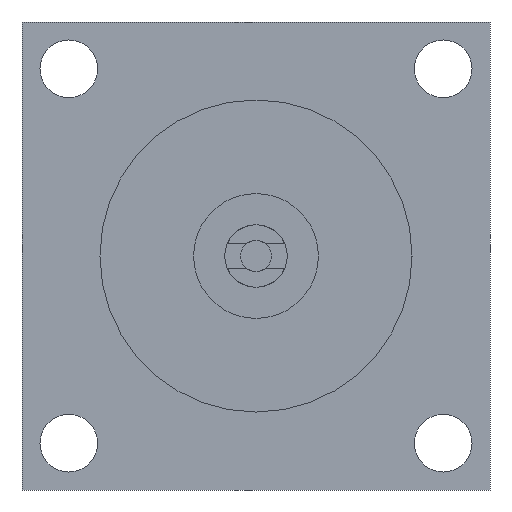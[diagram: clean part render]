
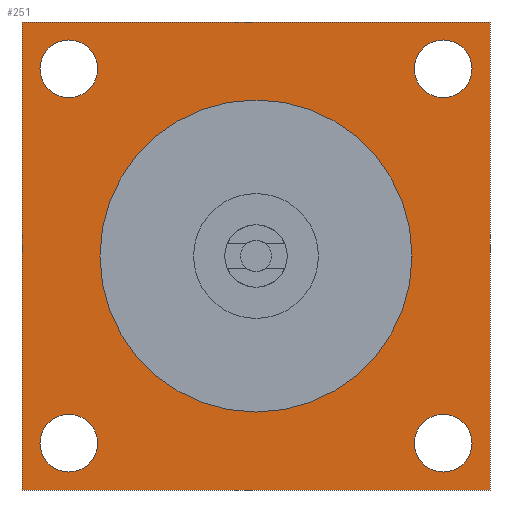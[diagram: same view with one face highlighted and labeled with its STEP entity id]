
A CAD part, left-side view. The second image highlights one B-rep face of the part: STEP entity #251.
In plain terms, the highlighted planar face has unit normal (-1, 0, 0).
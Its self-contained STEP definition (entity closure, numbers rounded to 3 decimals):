
#3 = CARTESIAN_POINT ( 'NONE',  ( -20., 0., 0. ) ) ;
#6 = AXIS2_PLACEMENT_3D ( 'NONE', #1146, #1133, #1195 ) ;
#15 = DIRECTION ( 'NONE',  ( 0., 0., 1. ) ) ;
#16 = FACE_BOUND ( 'NONE', #1518, .T. ) ;
#34 = DIRECTION ( 'NONE',  ( -1., 0., 0. ) ) ;
#39 = EDGE_CURVE ( 'NONE', #1234, #1529, #1609, .T. ) ;
#48 = DIRECTION ( 'NONE',  ( 0., 0., -1. ) ) ;
#57 = CARTESIAN_POINT ( 'NONE',  ( -20., -75., -75. ) ) ;
#71 = CARTESIAN_POINT ( 'NONE',  ( -20., -60., 60. ) ) ;
#76 = EDGE_CURVE ( 'NONE', #453, #1109, #85, .T. ) ;
#79 = DIRECTION ( 'NONE',  ( -1., 0., 0. ) ) ;
#83 = DIRECTION ( 'NONE',  ( 0., 0., 1. ) ) ;
#85 = CIRCLE ( 'NONE', #751, 9.25 ) ;
#127 = CARTESIAN_POINT ( 'NONE',  ( -20., 60., -69.25 ) ) ;
#131 = DIRECTION ( 'NONE',  ( -1., 0., 0. ) ) ;
#137 = DIRECTION ( 'NONE',  ( -1., 0., 0. ) ) ;
#150 = DIRECTION ( 'NONE',  ( 0., 0., 1. ) ) ;
#177 = VERTEX_POINT ( 'NONE', #930 ) ;
#191 = CARTESIAN_POINT ( 'NONE',  ( -20., -60., 60. ) ) ;
#207 = EDGE_CURVE ( 'NONE', #1415, #1305, #237, .T. ) ;
#237 = LINE ( 'NONE', #962, #433 ) ;
#251 = ADVANCED_FACE ( 'NONE', ( #1530, #16, #1483, #385, #714, #343 ), #1169, .F. ) ;
#264 = VERTEX_POINT ( 'NONE', #1350 ) ;
#273 = ORIENTED_EDGE ( 'NONE', *, *, #207, .T. ) ;
#287 = CARTESIAN_POINT ( 'NONE',  ( -20., 0., -50. ) ) ;
#304 = ORIENTED_EDGE ( 'NONE', *, *, #422, .F. ) ;
#340 = VERTEX_POINT ( 'NONE', #1644 ) ;
#343 = FACE_OUTER_BOUND ( 'NONE', #512, .T. ) ;
#347 = ORIENTED_EDGE ( 'NONE', *, *, #1727, .F. ) ;
#355 = EDGE_CURVE ( 'NONE', #397, #340, #664, .T. ) ;
#370 = VERTEX_POINT ( 'NONE', #1757 ) ;
#380 = EDGE_CURVE ( 'NONE', #1647, #370, #531, .T. ) ;
#381 = CARTESIAN_POINT ( 'NONE',  ( -20., -60., -69.25 ) ) ;
#385 = FACE_BOUND ( 'NONE', #1762, .T. ) ;
#397 = VERTEX_POINT ( 'NONE', #127 ) ;
#407 = LINE ( 'NONE', #758, #741 ) ;
#422 = EDGE_CURVE ( 'NONE', #340, #397, #833, .T. ) ;
#433 = VECTOR ( 'NONE', #1054, 1000. ) ;
#453 = VERTEX_POINT ( 'NONE', #1209 ) ;
#465 = EDGE_CURVE ( 'NONE', #1305, #533, #407, .T. ) ;
#476 = EDGE_CURVE ( 'NONE', #533, #264, #1170, .T. ) ;
#501 = CARTESIAN_POINT ( 'NONE',  ( -20., 60., -60. ) ) ;
#504 = EDGE_CURVE ( 'NONE', #264, #1415, #684, .T. ) ;
#512 = EDGE_LOOP ( 'NONE', ( #1246, #907, #523, #273 ) ) ;
#514 = DIRECTION ( 'NONE',  ( 0., 0., 1. ) ) ;
#517 = ORIENTED_EDGE ( 'NONE', *, *, #987, .F. ) ;
#521 = DIRECTION ( 'NONE',  ( -1., 0., 0. ) ) ;
#523 = ORIENTED_EDGE ( 'NONE', *, *, #504, .T. ) ;
#531 = CIRCLE ( 'NONE', #760, 9.25 ) ;
#533 = VERTEX_POINT ( 'NONE', #57 ) ;
#541 = DIRECTION ( 'NONE',  ( -1., 0., 0. ) ) ;
#556 = DIRECTION ( 'NONE',  ( 0., 0., 1. ) ) ;
#567 = CARTESIAN_POINT ( 'NONE',  ( -20., 60., 60. ) ) ;
#593 = ORIENTED_EDGE ( 'NONE', *, *, #380, .F. ) ;
#644 = AXIS2_PLACEMENT_3D ( 'NONE', #3, #34, #48 ) ;
#654 = AXIS2_PLACEMENT_3D ( 'NONE', #1712, #1717, #1750 ) ;
#664 = CIRCLE ( 'NONE', #654, 9.25 ) ;
#684 = LINE ( 'NONE', #1087, #1127 ) ;
#714 = FACE_BOUND ( 'NONE', #902, .T. ) ;
#741 = VECTOR ( 'NONE', #1186, 1000. ) ;
#748 = CIRCLE ( 'NONE', #1401, 50. ) ;
#751 = AXIS2_PLACEMENT_3D ( 'NONE', #71, #79, #83 ) ;
#758 = CARTESIAN_POINT ( 'NONE',  ( -20., 75., -75. ) ) ;
#760 = AXIS2_PLACEMENT_3D ( 'NONE', #1798, #1810, #1815 ) ;
#765 = ORIENTED_EDGE ( 'NONE', *, *, #1481, .F. ) ;
#794 = EDGE_LOOP ( 'NONE', ( #1317, #593 ) ) ;
#819 = CIRCLE ( 'NONE', #1155, 9.25 ) ;
#833 = CIRCLE ( 'NONE', #1637, 9.25 ) ;
#836 = DIRECTION ( 'NONE',  ( 0., 0., 1. ) ) ;
#842 = CIRCLE ( 'NONE', #1122, 9.25 ) ;
#855 = CARTESIAN_POINT ( 'NONE',  ( -20., 0., 0. ) ) ;
#860 = DIRECTION ( 'NONE',  ( -1., 0., 0. ) ) ;
#879 = CIRCLE ( 'NONE', #1579, 9.25 ) ;
#902 = EDGE_LOOP ( 'NONE', ( #304, #1031 ) ) ;
#907 = ORIENTED_EDGE ( 'NONE', *, *, #476, .T. ) ;
#915 = VERTEX_POINT ( 'NONE', #1417 ) ;
#929 = DIRECTION ( 'NONE',  ( 0., 0., -1. ) ) ;
#930 = CARTESIAN_POINT ( 'NONE',  ( -20., 60., 69.25 ) ) ;
#962 = CARTESIAN_POINT ( 'NONE',  ( -20., 75., 75. ) ) ;
#987 = EDGE_CURVE ( 'NONE', #915, #177, #1519, .T. ) ;
#1028 = CARTESIAN_POINT ( 'NONE',  ( -20., 75., -75. ) ) ;
#1031 = ORIENTED_EDGE ( 'NONE', *, *, #355, .F. ) ;
#1047 = CARTESIAN_POINT ( 'NONE',  ( -20., -75., 75. ) ) ;
#1054 = DIRECTION ( 'NONE',  ( 0., 0., -1. ) ) ;
#1087 = CARTESIAN_POINT ( 'NONE',  ( -20., 75., 75. ) ) ;
#1109 = VERTEX_POINT ( 'NONE', #1224 ) ;
#1122 = AXIS2_PLACEMENT_3D ( 'NONE', #567, #541, #514 ) ;
#1127 = VECTOR ( 'NONE', #1190, 1000. ) ;
#1133 = DIRECTION ( 'NONE',  ( 1., 0., 0. ) ) ;
#1141 = ORIENTED_EDGE ( 'NONE', *, *, #39, .F. ) ;
#1146 = CARTESIAN_POINT ( 'NONE',  ( -20., 0., 0. ) ) ;
#1155 = AXIS2_PLACEMENT_3D ( 'NONE', #191, #137, #15 ) ;
#1169 = PLANE ( 'NONE',  #6 ) ;
#1170 = LINE ( 'NONE', #1047, #1844 ) ;
#1186 = DIRECTION ( 'NONE',  ( 0., -1., 0. ) ) ;
#1190 = DIRECTION ( 'NONE',  ( 0., 1., 0. ) ) ;
#1195 = DIRECTION ( 'NONE',  ( 0., 0., -1. ) ) ;
#1209 = CARTESIAN_POINT ( 'NONE',  ( -20., -60., 50.75 ) ) ;
#1224 = CARTESIAN_POINT ( 'NONE',  ( -20., -60., 69.25 ) ) ;
#1234 = VERTEX_POINT ( 'NONE', #287 ) ;
#1246 = ORIENTED_EDGE ( 'NONE', *, *, #465, .T. ) ;
#1261 = CARTESIAN_POINT ( 'NONE',  ( -20., -60., -60. ) ) ;
#1268 = DIRECTION ( 'NONE',  ( -1., 0., 0. ) ) ;
#1273 = DIRECTION ( 'NONE',  ( 0., 0., 1. ) ) ;
#1292 = EDGE_CURVE ( 'NONE', #370, #1647, #879, .T. ) ;
#1296 = CARTESIAN_POINT ( 'NONE',  ( -20., 75., 75. ) ) ;
#1305 = VERTEX_POINT ( 'NONE', #1028 ) ;
#1317 = ORIENTED_EDGE ( 'NONE', *, *, #1292, .F. ) ;
#1350 = CARTESIAN_POINT ( 'NONE',  ( -20., -75., 75. ) ) ;
#1401 = AXIS2_PLACEMENT_3D ( 'NONE', #855, #860, #929 ) ;
#1402 = ORIENTED_EDGE ( 'NONE', *, *, #1770, .F. ) ;
#1415 = VERTEX_POINT ( 'NONE', #1296 ) ;
#1417 = CARTESIAN_POINT ( 'NONE',  ( -20., 60., 50.75 ) ) ;
#1425 = EDGE_LOOP ( 'NONE', ( #1141, #1402 ) ) ;
#1433 = CARTESIAN_POINT ( 'NONE',  ( -20., 0., 50. ) ) ;
#1449 = ORIENTED_EDGE ( 'NONE', *, *, #76, .F. ) ;
#1481 = EDGE_CURVE ( 'NONE', #1109, #453, #819, .T. ) ;
#1483 = FACE_BOUND ( 'NONE', #794, .T. ) ;
#1518 = EDGE_LOOP ( 'NONE', ( #765, #1449 ) ) ;
#1519 = CIRCLE ( 'NONE', #1742, 9.25 ) ;
#1529 = VERTEX_POINT ( 'NONE', #1433 ) ;
#1530 = FACE_BOUND ( 'NONE', #1425, .T. ) ;
#1579 = AXIS2_PLACEMENT_3D ( 'NONE', #1261, #1268, #1273 ) ;
#1609 = CIRCLE ( 'NONE', #644, 50. ) ;
#1637 = AXIS2_PLACEMENT_3D ( 'NONE', #501, #521, #556 ) ;
#1644 = CARTESIAN_POINT ( 'NONE',  ( -20., 60., -50.75 ) ) ;
#1647 = VERTEX_POINT ( 'NONE', #381 ) ;
#1712 = CARTESIAN_POINT ( 'NONE',  ( -20., 60., -60. ) ) ;
#1717 = DIRECTION ( 'NONE',  ( -1., 0., 0. ) ) ;
#1727 = EDGE_CURVE ( 'NONE', #177, #915, #842, .T. ) ;
#1742 = AXIS2_PLACEMENT_3D ( 'NONE', #1845, #131, #150 ) ;
#1750 = DIRECTION ( 'NONE',  ( 0., 0., 1. ) ) ;
#1757 = CARTESIAN_POINT ( 'NONE',  ( -20., -60., -50.75 ) ) ;
#1762 = EDGE_LOOP ( 'NONE', ( #347, #517 ) ) ;
#1770 = EDGE_CURVE ( 'NONE', #1529, #1234, #748, .T. ) ;
#1798 = CARTESIAN_POINT ( 'NONE',  ( -20., -60., -60. ) ) ;
#1810 = DIRECTION ( 'NONE',  ( -1., 0., 0. ) ) ;
#1815 = DIRECTION ( 'NONE',  ( 0., 0., 1. ) ) ;
#1844 = VECTOR ( 'NONE', #836, 1000. ) ;
#1845 = CARTESIAN_POINT ( 'NONE',  ( -20., 60., 60. ) ) ;
